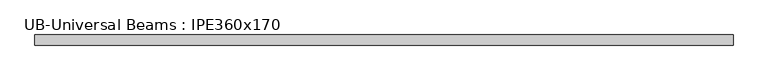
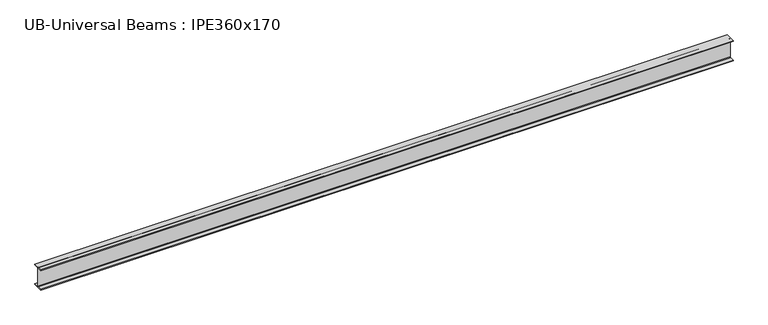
"""IFC4 building model written with IfcOpenShell, lengths in millimetres: beam geometry, UB-Universal Beams : IPE360x170."""

from ifc_helpers import new_model, si_unit, point, frame, frame_2d, origin, place, context, project, spatial, polyline, circle_curve, trimmed, segment, composite_curve, outline, extrude, source, transform, mapped, element, save


def ub_universal_beams_ipe360x170_40bca2fe(model_context):
    return source(origin(), model_context, "Body", "SweptSolid", [
        extrude(outline(composite_curve([segment(polyline([(-85.0, -169.8), (-11.9, -169.8)]), True, "CONTINUOUS"), segment(trimmed(circle_curve(frame_2d((-11.9, -160.9)), 8.9), [point((-11.9, -169.8))], [point((-3.0, -160.9))], True, "CARTESIAN"), True, "CONTINUOUS"), segment(polyline([(-3.0, -160.9), (-3.0, 160.9)]), True, "CONTINUOUS"), segment(trimmed(circle_curve(frame_2d((-11.9, 160.9)), 8.9), [point((-3.0, 160.9))], [point((-11.9, 169.8))], True, "CARTESIAN"), True, "CONTINUOUS"), segment(polyline([(-11.9, 169.8), (-85.0, 169.8), (-85.0, 180.0), (85.0, 180.0), (85.0, 169.8), (11.9, 169.8)]), True, "CONTINUOUS"), segment(trimmed(circle_curve(frame_2d((11.9, 160.9)), 8.9), [point((11.9, 169.8))], [point((3.0, 160.9))], True, "CARTESIAN"), True, "CONTINUOUS"), segment(polyline([(3.0, 160.9), (3.0, -160.9)]), True, "CONTINUOUS"), segment(trimmed(circle_curve(frame_2d((11.9, -160.9)), 8.9), [point((3.0, -160.9))], [point((11.9, -169.8))], True, "CARTESIAN"), True, "CONTINUOUS"), segment(polyline([(11.9, -169.8), (85.0, -169.8), (85.0, -180.0), (-85.0, -180.0), (-85.0, -169.8)]), True, "CONTINUOUS")], self_intersect=False)), frame((-5836.9, 0.0, 0.0), z_axis=(1.0, 0.0, 0.0), x_axis=(0.0, 1.0, 0.0)), (0.0, 0.0, 1.0), 11748.9),
    ])


if __name__ == "__main__":
    model = new_model("IFC4")
    model_context = context("Model", 3, world=origin())
    ifc_project = project(units=[si_unit("LENGTHUNIT", "METRE", prefix="MILLI")], contexts=[model_context])
    site = spatial("IfcSite", under=ifc_project)
    building = spatial("IfcBuilding", under=site)
    placement = place(None, origin())
    ub_universal_beams_ipe360x170_shape = ub_universal_beams_ipe360x170_40bca2fe(model_context)
    element("IfcBeam", 1, ObjectType="UB-Universal Beams : IPE360x170", at=placement, inside=building, context=model_context, shape_type="MappedRepresentation", body=[
        mapped(ub_universal_beams_ipe360x170_shape, transform((0.0, 0.0, 0.0), x_axis=(1.0, 0.0, 0.0), y_axis=(0.0, 1.0, 0.0), z_axis=(0.0, 0.0, 1.0))),
    ])
    save(model, "model.ifc")
